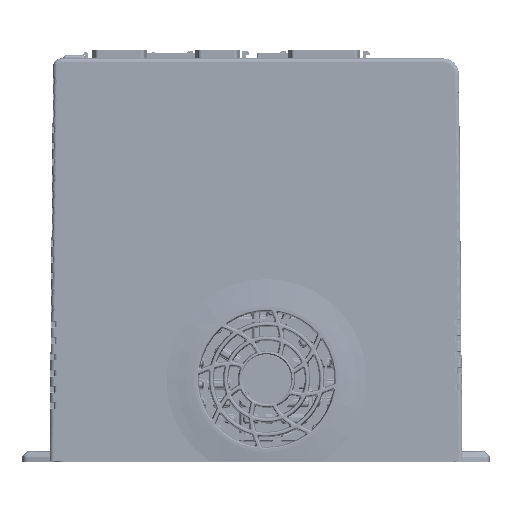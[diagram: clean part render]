
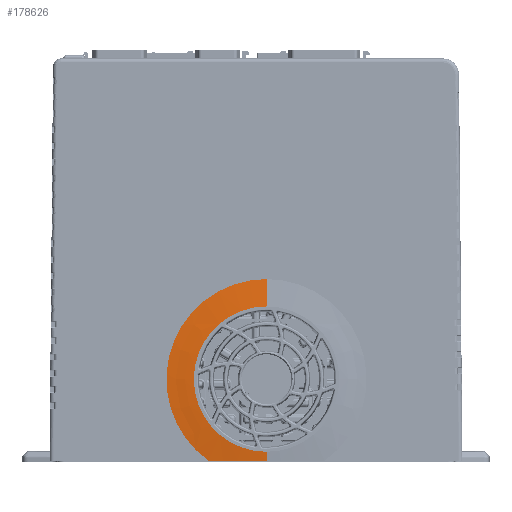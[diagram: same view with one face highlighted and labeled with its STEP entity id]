
A CAD part, front view. The second image highlights one B-rep face of the part: STEP entity #178626.
In plain terms, the highlighted free-form (B-spline) face has degree [3, 3] with [4, 4] control points.
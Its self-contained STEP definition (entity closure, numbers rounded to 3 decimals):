
#13281 = CARTESIAN_POINT ( 'NONE',  ( -8.722, 24.676, 3.896 ) ) ;
#15043 = CARTESIAN_POINT ( 'NONE',  ( 51.753, 23.305, 3.896 ) ) ;
#29139 = CIRCLE ( 'NONE', #569286, 37. ) ;
#38083 = AXIS2_PLACEMENT_3D ( 'NONE', #47329, #91579, #486121 ) ;
#41033 = EDGE_CURVE ( 'NONE', #159014, #227332, #29139, .T. ) ;
#41202 = CARTESIAN_POINT ( 'NONE',  ( -8.722, 24.676, 3.896 ) ) ;
#47329 = CARTESIAN_POINT ( 'NONE',  ( 18.154, 24.442, 3.896 ) ) ;
#47950 = CARTESIAN_POINT ( 'NONE',  ( 55.144, 23.119, 3.896 ) ) ;
#53550 = CARTESIAN_POINT ( 'NONE',  ( -12., 24.419, 3.896 ) ) ;
#65938 = CARTESIAN_POINT ( 'NONE',  ( 48.421, 24.013, -56.643 ) ) ;
#74092 =( BOUNDED_SURFACE ( )  B_SPLINE_SURFACE ( 3, 3, ( 
 ( #209415, #354801, #308432, #156671 ),
 ( #445724, #542901, #547083, #15043 ),
 ( #306389, #112271, #65938, #401270 ),
 ( #253750, #549201, #257934, #397147 ) ),
 .UNSPECIFIED., .F., .F., .F. ) 
 B_SPLINE_SURFACE_WITH_KNOTS ( ( 4, 4 ),
 ( 4, 4 ),
 ( 0., 1. ),
 ( 0., 1. ),
 .UNSPECIFIED. ) 
 GEOMETRIC_REPRESENTATION_ITEM ( )  RATIONAL_B_SPLINE_SURFACE ( (
 ( 1., 0.333, 0.333, 1.),
 ( 1., 0.333, 0.333, 1.),
 ( 1., 0.333, 0.333, 1.),
 ( 1., 0.333, 0.333, 1.) ) ) 
 REPRESENTATION_ITEM ( '' )  SURFACE ( )  );
#79938 = CARTESIAN_POINT ( 'NONE',  ( -12., 23.705, -17.557 ) ) ;
#87594 = CARTESIAN_POINT ( 'NONE',  ( -12., 24.419, 3.896 ) ) ;
#91579 = DIRECTION ( 'NONE',  ( -0.009, -1., 0. ) ) ;
#104141 = CARTESIAN_POINT ( 'NONE',  ( -12., 23.844, -13.98 ) ) ;
#112271 = CARTESIAN_POINT ( 'NONE',  ( -12.116, 24.542, -56.643 ) ) ;
#142300 = EDGE_CURVE ( 'NONE', #594120, #211814, #214529, .T. ) ;
#150520 = CARTESIAN_POINT ( 'NONE',  ( -12., 24.119, -8.617 ) ) ;
#156671 = CARTESIAN_POINT ( 'NONE',  ( 55.144, 23.119, 3.896 ) ) ;
#159014 = VERTEX_POINT ( 'NONE', #79938 ) ;
#177975 = ORIENTED_EDGE ( 'NONE', *, *, #142300, .T. ) ;
#178626 = ADVANCED_FACE ( 'NONE', ( #242303 ), #74092, .T. ) ;
#183055 = CARTESIAN_POINT ( 'NONE',  ( 48.421, 24.013, 3.896 ) ) ;
#209415 = CARTESIAN_POINT ( 'NONE',  ( -18.854, 23.765, 3.896 ) ) ;
#211814 = VERTEX_POINT ( 'NONE', #13281 ) ;
#214529 = B_SPLINE_CURVE_WITH_KNOTS ( 'NONE', 3,
 ( #87594, #477924, #425152, #41202 ),
 .UNSPECIFIED., .F., .F.,
 ( 4, 4 ),
 ( 0.677, 1. ),
 .UNSPECIFIED. ) ;
#227332 = VERTEX_POINT ( 'NONE', #47950 ) ;
#242303 = FACE_OUTER_BOUND ( 'NONE', #433703, .T. ) ;
#253750 = CARTESIAN_POINT ( 'NONE',  ( -8.722, 24.676, 3.896 ) ) ;
#257934 = CARTESIAN_POINT ( 'NONE',  ( 45.03, 24.207, -49.858 ) ) ;
#267618 = CARTESIAN_POINT ( 'NONE',  ( 45.03, 24.207, 3.896 ) ) ;
#278018 = CARTESIAN_POINT ( 'NONE',  ( 55.144, 23.119, 3.896 ) ) ;
#289542 = DIRECTION ( 'NONE',  ( -0.009, -1., 0. ) ) ;
#302919 = ORIENTED_EDGE ( 'NONE', *, *, #621587, .T. ) ;
#306389 = CARTESIAN_POINT ( 'NONE',  ( -12.116, 24.542, 3.896 ) ) ;
#308432 = CARTESIAN_POINT ( 'NONE',  ( 55.144, 23.119, -70.104 ) ) ;
#331734 = CARTESIAN_POINT ( 'NONE',  ( 18.145, 23.442, 3.896 ) ) ;
#334971 = ORIENTED_EDGE ( 'NONE', *, *, #41033, .F. ) ;
#337935 = DIRECTION ( 'NONE',  ( 1., -0.009, 0. ) ) ;
#340405 = CARTESIAN_POINT ( 'NONE',  ( -12., 24.419, 0.322 ) ) ;
#354801 = CARTESIAN_POINT ( 'NONE',  ( -18.854, 23.765, -70.104 ) ) ;
#390631 = CIRCLE ( 'NONE', #38083, 26.877 ) ;
#397147 = CARTESIAN_POINT ( 'NONE',  ( 45.03, 24.207, 3.896 ) ) ;
#401270 = CARTESIAN_POINT ( 'NONE',  ( 48.421, 24.013, 3.896 ) ) ;
#414517 = ORIENTED_EDGE ( 'NONE', *, *, #500623, .T. ) ;
#425152 = CARTESIAN_POINT ( 'NONE',  ( -9.819, 24.633, 3.896 ) ) ;
#433703 = EDGE_LOOP ( 'NONE', ( #414517, #177975, #302919, #514462, #334971 ) ) ;
#437516 = CARTESIAN_POINT ( 'NONE',  ( -12., 24.343, -3.253 ) ) ;
#445724 = CARTESIAN_POINT ( 'NONE',  ( -15.46, 23.892, 3.896 ) ) ;
#460895 = B_SPLINE_CURVE_WITH_KNOTS ( 'NONE', 3,
 ( #488244, #486128, #104141, #490315, #150520, #437516, #340405, #53550 ),
 .UNSPECIFIED., .F., .F.,
 ( 4, 2, 2, 4 ),
 ( 0., 0.005, 0.011, 0.021 ),
 .UNSPECIFIED. ) ;
#462651 = EDGE_CURVE ( 'NONE', #227332, #515748, #547230, .T. ) ;
#477924 = CARTESIAN_POINT ( 'NONE',  ( -10.91, 24.535, 3.896 ) ) ;
#486121 = DIRECTION ( 'NONE',  ( 1., -0.009, 0. ) ) ;
#486128 = CARTESIAN_POINT ( 'NONE',  ( -12., 23.753, -15.767 ) ) ;
#487280 = CARTESIAN_POINT ( 'NONE',  ( -12., 24.419, 3.896 ) ) ;
#488244 = CARTESIAN_POINT ( 'NONE',  ( -12., 23.705, -17.557 ) ) ;
#490315 = CARTESIAN_POINT ( 'NONE',  ( -12., 24.027, -10.405 ) ) ;
#500623 = EDGE_CURVE ( 'NONE', #159014, #594120, #460895, .T. ) ;
#514462 = ORIENTED_EDGE ( 'NONE', *, *, #462651, .F. ) ;
#515748 = VERTEX_POINT ( 'NONE', #267618 ) ;
#542901 = CARTESIAN_POINT ( 'NONE',  ( -15.46, 23.892, -63.319 ) ) ;
#547083 = CARTESIAN_POINT ( 'NONE',  ( 51.753, 23.305, -63.319 ) ) ;
#547230 = B_SPLINE_CURVE_WITH_KNOTS ( 'NONE', 3,
 ( #278018, #609615, #183055, #615928 ),
 .UNSPECIFIED., .F., .F.,
 ( 4, 4 ),
 ( 0., 1. ),
 .UNSPECIFIED. ) ;
#549201 = CARTESIAN_POINT ( 'NONE',  ( -8.722, 24.676, -49.858 ) ) ;
#569286 = AXIS2_PLACEMENT_3D ( 'NONE', #331734, #289542, #337935 ) ;
#594120 = VERTEX_POINT ( 'NONE', #487280 ) ;
#609615 = CARTESIAN_POINT ( 'NONE',  ( 51.753, 23.305, 3.896 ) ) ;
#615928 = CARTESIAN_POINT ( 'NONE',  ( 45.03, 24.207, 3.896 ) ) ;
#621587 = EDGE_CURVE ( 'NONE', #211814, #515748, #390631, .T. ) ;
